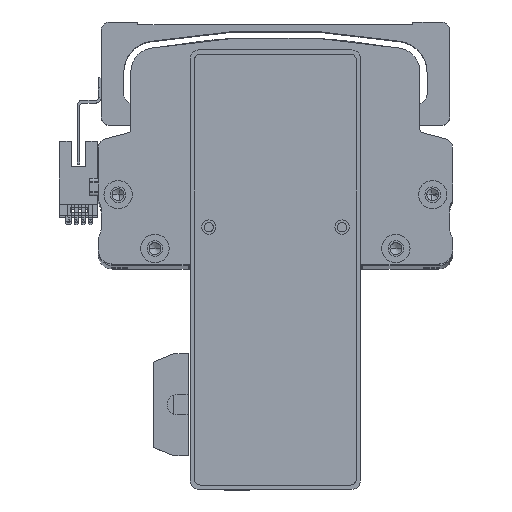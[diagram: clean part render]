
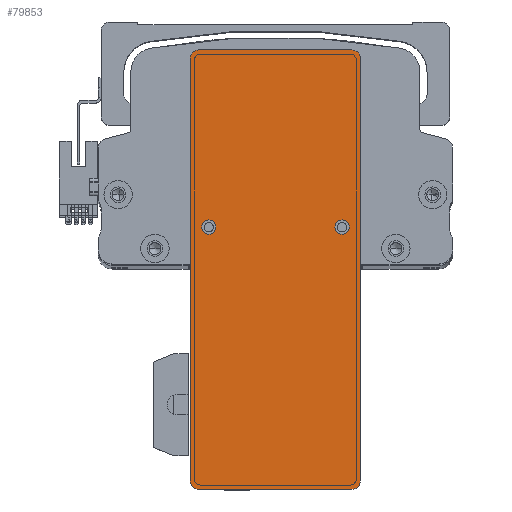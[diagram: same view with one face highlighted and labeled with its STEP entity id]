
A CAD part, top view. The second image highlights one B-rep face of the part: STEP entity #79853.
In plain terms, the highlighted planar face has unit normal (0, 0, 1) as drawn and (0, 0, -1) by its records, which use the part's own axes.
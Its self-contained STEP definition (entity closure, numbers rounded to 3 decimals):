
#213 = DIRECTION ( 'NONE',  ( 1., 0., 0. ) ) ;
#291 = DIRECTION ( 'NONE',  ( 1., 0., 0. ) ) ;
#1440 = DIRECTION ( 'NONE',  ( -1., 0., 0. ) ) ;
#2317 = EDGE_LOOP ( 'NONE', ( #25878, #51701 ) ) ;
#2483 = VERTEX_POINT ( 'NONE', #33772 ) ;
#2845 = ORIENTED_EDGE ( 'NONE', *, *, #12247, .F. ) ;
#2995 = VERTEX_POINT ( 'NONE', #45697 ) ;
#3395 = AXIS2_PLACEMENT_3D ( 'NONE', #36721, #80434, #42976 ) ;
#4041 = ORIENTED_EDGE ( 'NONE', *, *, #27492, .F. ) ;
#6588 = CARTESIAN_POINT ( 'NONE',  ( -77.5, -27., 0. ) ) ;
#6868 = AXIS2_PLACEMENT_3D ( 'NONE', #75065, #37615, #213 ) ;
#8632 = EDGE_CURVE ( 'NONE', #23913, #47905, #58536, .T. ) ;
#8712 = ORIENTED_EDGE ( 'NONE', *, *, #72436, .F. ) ;
#9631 = VERTEX_POINT ( 'NONE', #6588 ) ;
#9965 = CARTESIAN_POINT ( 'NONE',  ( 74.5, -30., 0. ) ) ;
#10944 = AXIS2_PLACEMENT_3D ( 'NONE', #69024, #31595, #75330 ) ;
#11102 = DIRECTION ( 'NONE',  ( 0., 0., -1. ) ) ;
#11199 = ORIENTED_EDGE ( 'NONE', *, *, #40640, .T. ) ;
#11579 = AXIS2_PLACEMENT_3D ( 'NONE', #75142, #37704, #291 ) ;
#11813 = ORIENTED_EDGE ( 'NONE', *, *, #20368, .T. ) ;
#11893 = CIRCLE ( 'NONE', #13808, 2.5 ) ;
#12247 = EDGE_CURVE ( 'NONE', #19747, #68257, #72429, .T. ) ;
#13808 = AXIS2_PLACEMENT_3D ( 'NONE', #18704, #62307, #24961 ) ;
#15071 = DIRECTION ( 'NONE',  ( 0., -1., 0. ) ) ;
#16009 = CIRCLE ( 'NONE', #10944, 3. ) ;
#16380 = VERTEX_POINT ( 'NONE', #66374 ) ;
#16463 = AXIS2_PLACEMENT_3D ( 'NONE', #76269, #38818, #1440 ) ;
#17406 = CARTESIAN_POINT ( 'NONE',  ( 77.5, 30., 0. ) ) ;
#18704 = CARTESIAN_POINT ( 'NONE',  ( 15., 23.5, 0. ) ) ;
#19747 = VERTEX_POINT ( 'NONE', #56266 ) ;
#20368 = EDGE_CURVE ( 'NONE', #2995, #68257, #16009, .T. ) ;
#21656 = EDGE_CURVE ( 'NONE', #47905, #23913, #62708, .T. ) ;
#21905 = FACE_BOUND ( 'NONE', #2317, .T. ) ;
#23089 = AXIS2_PLACEMENT_3D ( 'NONE', #71742, #34292, #78053 ) ;
#23109 = CIRCLE ( 'NONE', #11579, 3. ) ;
#23674 = DIRECTION ( 'NONE',  ( -1., 0., 0. ) ) ;
#23851 = FACE_OUTER_BOUND ( 'NONE', #28717, .T. ) ;
#23913 = VERTEX_POINT ( 'NONE', #80702 ) ;
#24049 = EDGE_CURVE ( 'NONE', #75669, #33249, #66977, .T. ) ;
#24961 = DIRECTION ( 'NONE',  ( -1., 0., 0. ) ) ;
#25878 = ORIENTED_EDGE ( 'NONE', *, *, #21656, .F. ) ;
#26266 = EDGE_CURVE ( 'NONE', #19747, #9631, #29617, .T. ) ;
#27492 = EDGE_CURVE ( 'NONE', #16380, #9631, #67445, .T. ) ;
#28405 = DIRECTION ( 'NONE',  ( 0., 0., -1. ) ) ;
#28717 = EDGE_LOOP ( 'NONE', ( #8712, #11813, #2845, #47981, #4041, #11199, #38693, #78756 ) ) ;
#29617 = CIRCLE ( 'NONE', #23089, 3. ) ;
#29915 = EDGE_CURVE ( 'NONE', #2483, #78197, #54558, .T. ) ;
#31595 = DIRECTION ( 'NONE',  ( 0., 0., -1. ) ) ;
#31966 = VECTOR ( 'NONE', #23674, 1000. ) ;
#33249 = VERTEX_POINT ( 'NONE', #56525 ) ;
#33772 = CARTESIAN_POINT ( 'NONE',  ( 74.5, 30., 0. ) ) ;
#34197 = VECTOR ( 'NONE', #15071, 1000. ) ;
#34292 = DIRECTION ( 'NONE',  ( 0., 0., -1. ) ) ;
#34903 = DIRECTION ( 'NONE',  ( 1., 0., 0. ) ) ;
#36721 = CARTESIAN_POINT ( 'NONE',  ( 74.5, 27., 0. ) ) ;
#37615 = DIRECTION ( 'NONE',  ( 0., 0., 1. ) ) ;
#37704 = DIRECTION ( 'NONE',  ( 0., 0., -1. ) ) ;
#38482 = CARTESIAN_POINT ( 'NONE',  ( 12.5, 23.5, 0. ) ) ;
#38693 = ORIENTED_EDGE ( 'NONE', *, *, #68721, .F. ) ;
#38818 = DIRECTION ( 'NONE',  ( 0., 0., -1. ) ) ;
#40640 = EDGE_CURVE ( 'NONE', #16380, #51534, #23109, .T. ) ;
#42976 = DIRECTION ( 'NONE',  ( 1., 0., 0. ) ) ;
#45697 = CARTESIAN_POINT ( 'NONE',  ( 77.5, -27., 0. ) ) ;
#47399 = VECTOR ( 'NONE', #53339, 1000. ) ;
#47905 = VERTEX_POINT ( 'NONE', #78636 ) ;
#47981 = ORIENTED_EDGE ( 'NONE', *, *, #26266, .T. ) ;
#48433 = CARTESIAN_POINT ( 'NONE',  ( 15., -23.5, 0. ) ) ;
#48551 = LINE ( 'NONE', #17406, #31966 ) ;
#49371 = LINE ( 'NONE', #65894, #47399 ) ;
#51534 = VERTEX_POINT ( 'NONE', #58348 ) ;
#51701 = ORIENTED_EDGE ( 'NONE', *, *, #8632, .F. ) ;
#52822 = AXIS2_PLACEMENT_3D ( 'NONE', #48433, #11102, #54742 ) ;
#53339 = DIRECTION ( 'NONE',  ( 0., 1., 0. ) ) ;
#53830 = VECTOR ( 'NONE', #34903, 1000. ) ;
#54054 = EDGE_LOOP ( 'NONE', ( #77681, #71940 ) ) ;
#54558 = CIRCLE ( 'NONE', #3395, 3. ) ;
#54742 = DIRECTION ( 'NONE',  ( -1., 0., 0. ) ) ;
#55046 = FACE_BOUND ( 'NONE', #54054, .T. ) ;
#56266 = CARTESIAN_POINT ( 'NONE',  ( -74.5, -30., 0. ) ) ;
#56525 = CARTESIAN_POINT ( 'NONE',  ( 17.5, 23.5, 0. ) ) ;
#57022 = EDGE_CURVE ( 'NONE', #33249, #75669, #11893, .T. ) ;
#58348 = CARTESIAN_POINT ( 'NONE',  ( -74.5, 30., 0. ) ) ;
#58536 = CIRCLE ( 'NONE', #52822, 2.5 ) ;
#62307 = DIRECTION ( 'NONE',  ( 0., 0., -1. ) ) ;
#62708 = CIRCLE ( 'NONE', #67463, 2.5 ) ;
#65779 = CARTESIAN_POINT ( 'NONE',  ( 15., -23.5, 0. ) ) ;
#65894 = CARTESIAN_POINT ( 'NONE',  ( 77.5, -30., 0. ) ) ;
#66044 = CARTESIAN_POINT ( 'NONE',  ( 77.5, -30., 0. ) ) ;
#66374 = CARTESIAN_POINT ( 'NONE',  ( -77.5, 27., 0. ) ) ;
#66977 = CIRCLE ( 'NONE', #16463, 2.5 ) ;
#67300 = CARTESIAN_POINT ( 'NONE',  ( 77.5, 27., 0. ) ) ;
#67445 = LINE ( 'NONE', #77570, #34197 ) ;
#67463 = AXIS2_PLACEMENT_3D ( 'NONE', #65779, #28405, #72100 ) ;
#68257 = VERTEX_POINT ( 'NONE', #9965 ) ;
#68721 = EDGE_CURVE ( 'NONE', #2483, #51534, #48551, .T. ) ;
#69024 = CARTESIAN_POINT ( 'NONE',  ( 74.5, -27., 0. ) ) ;
#71742 = CARTESIAN_POINT ( 'NONE',  ( -74.5, -27., 0. ) ) ;
#71940 = ORIENTED_EDGE ( 'NONE', *, *, #57022, .F. ) ;
#72100 = DIRECTION ( 'NONE',  ( -1., 0., 0. ) ) ;
#72429 = LINE ( 'NONE', #66044, #53830 ) ;
#72436 = EDGE_CURVE ( 'NONE', #2995, #78197, #49371, .T. ) ;
#74811 = PLANE ( 'NONE',  #6868 ) ;
#75065 = CARTESIAN_POINT ( 'NONE',  ( 0., 0., 0. ) ) ;
#75142 = CARTESIAN_POINT ( 'NONE',  ( -74.5, 27., 0. ) ) ;
#75330 = DIRECTION ( 'NONE',  ( 1., 0., 0. ) ) ;
#75669 = VERTEX_POINT ( 'NONE', #38482 ) ;
#76269 = CARTESIAN_POINT ( 'NONE',  ( 15., 23.5, 0. ) ) ;
#77570 = CARTESIAN_POINT ( 'NONE',  ( -77.5, -30., 0. ) ) ;
#77681 = ORIENTED_EDGE ( 'NONE', *, *, #24049, .F. ) ;
#78053 = DIRECTION ( 'NONE',  ( 1., 0., 0. ) ) ;
#78197 = VERTEX_POINT ( 'NONE', #67300 ) ;
#78636 = CARTESIAN_POINT ( 'NONE',  ( 12.5, -23.5, 0. ) ) ;
#78756 = ORIENTED_EDGE ( 'NONE', *, *, #29915, .T. ) ;
#79853 = ADVANCED_FACE ( 'NONE', ( #55046, #21905, #23851 ), #74811, .F. ) ;
#80434 = DIRECTION ( 'NONE',  ( 0., 0., -1. ) ) ;
#80702 = CARTESIAN_POINT ( 'NONE',  ( 17.5, -23.5, 0. ) ) ;
